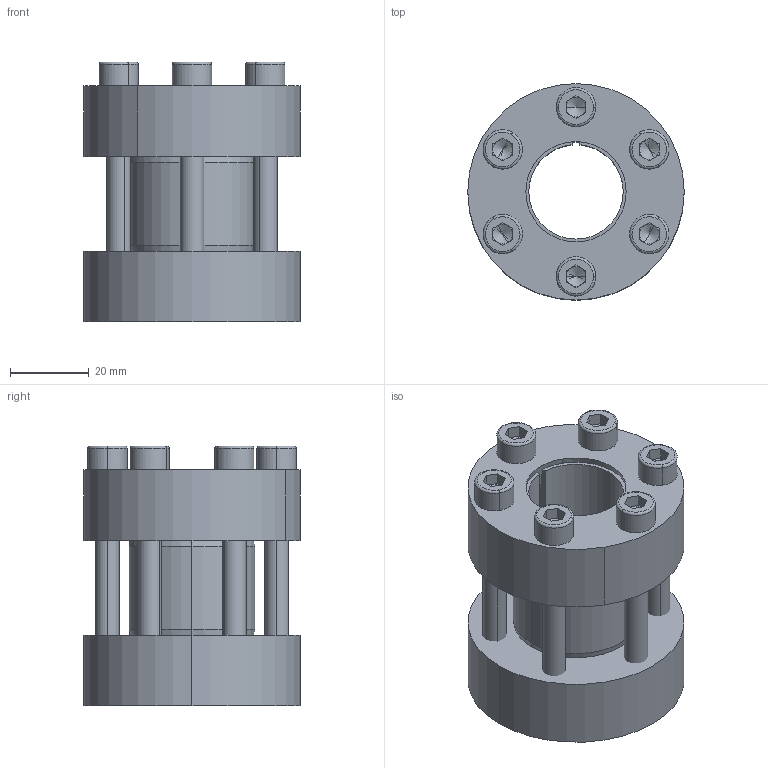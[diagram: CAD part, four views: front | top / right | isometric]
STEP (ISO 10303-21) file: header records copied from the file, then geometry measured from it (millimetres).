
FILE_DESCRIPTION (( 'STEP AP214' ), '1' );
FILE_NAME ('CONEX-M-24x55.step', '2013-04-06T13:25:11', ( 'Pc' ), ( '' ), 'SwSTEP 2.0', 'SolidWorks 2013', '' );
FILE_SCHEMA (( 'AUTOMOTIVE_DESIGN' ));
Length unit declared in the file: millimetre
Products named in the file (1): CONEX-M-24x55
Bounding box: 55 x 55 x 66.01 mm (x, y, z)
Volume: 82506.2 mm3; surface area: 38318.4 mm2
Topology: 9 solids, 9 shells, 214 faces, 482 edges, 286 vertices
Faces by surface type: plane 98, cylinder 58, cone 34, torus 24
Entity records: 8399 total; most frequent: DIRECTION 1122, CARTESIAN_POINT 998, ORIENTED_EDGE 940, EDGE_CURVE 470, AXIS2_PLACEMENT_3D 441, VERTEX_POINT 286, EDGE_LOOP 254, LINE 240
